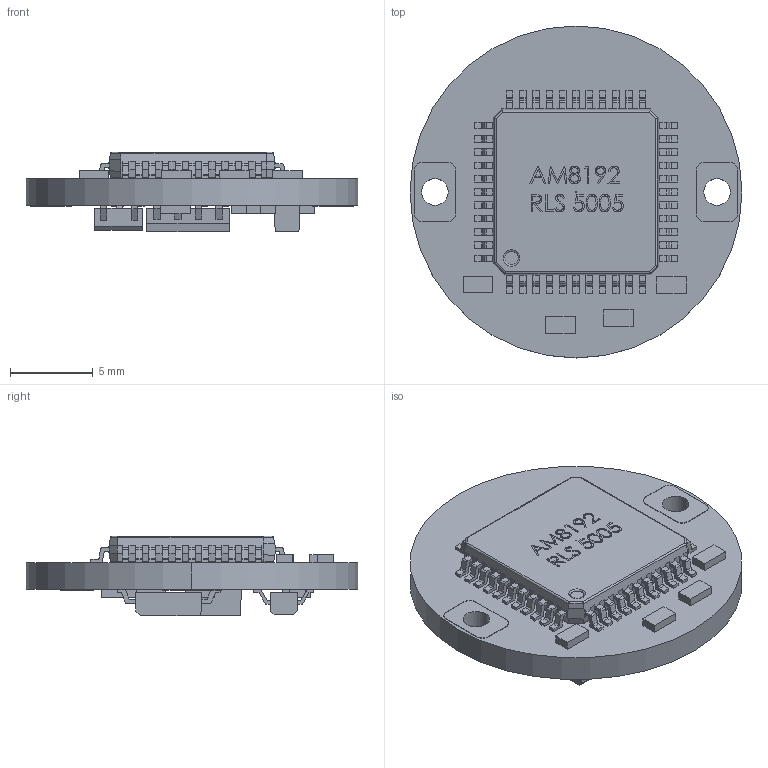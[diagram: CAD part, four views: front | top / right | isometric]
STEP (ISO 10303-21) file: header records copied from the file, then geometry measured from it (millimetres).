
FILE_DESCRIPTION (( 'STEP AP214' ), '1' );
FILE_NAME ('RMB20SC13BC10.STEP', '2016-11-08T07:08:56', ( '' ), ( '' ), 'SwSTEP 2.0', 'SolidWorks 2016', '' );
FILE_SCHEMA (( 'AUTOMOTIVE_DESIGN' ));
Length unit declared in the file: millimetre
Products named in the file (1): RMB20SC13BC10
Bounding box: 20 x 20 x 4.81 mm (x, y, z)
Volume: 713.3 mm3; surface area: 1021.3 mm2
Topology: 1 solids, 1 shells, 966 faces, 2846 edges, 1888 vertices
Faces by surface type: plane 750, cylinder 128, bspline 86, torus 2
Entity records: 38405 total; most frequent: CARTESIAN_POINT 11443, ORIENTED_EDGE 5692, DIRECTION 4650, EDGE_CURVE 2846, VECTOR 2428, LINE 2428, VERTEX_POINT 1888, AXIS2_PLACEMENT_3D 1111
